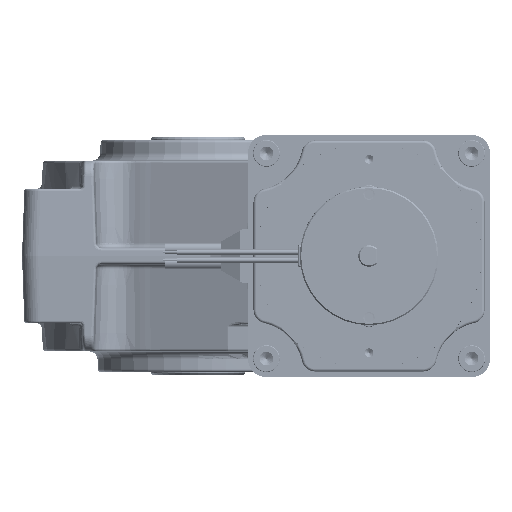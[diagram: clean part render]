
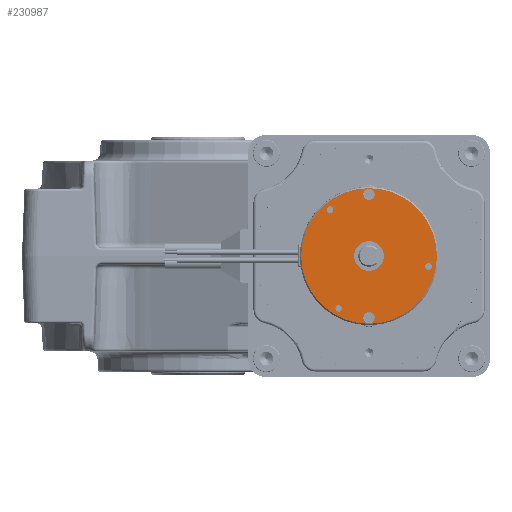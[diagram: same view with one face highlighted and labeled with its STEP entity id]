
A CAD part, left-side view. The second image highlights one B-rep face of the part: STEP entity #230987.
In plain terms, the highlighted planar face has unit normal (-1, 0, 0).
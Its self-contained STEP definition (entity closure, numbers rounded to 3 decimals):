
#2527 = FACE_BOUND ( 'NONE', #155790, .T. ) ;
#9206 = CARTESIAN_POINT ( 'NONE',  ( -340.959, -14.243, 55.702 ) ) ;
#12703 = CARTESIAN_POINT ( 'NONE',  ( -340.959, -16.841, 17.916 ) ) ;
#13329 = DIRECTION ( 'NONE',  ( 0., -0.5, 0.866 ) ) ;
#15775 = CARTESIAN_POINT ( 'NONE',  ( -340.959, -50.249, 33.495 ) ) ;
#21042 = CIRCLE ( 'NONE', #175764, 2.1 ) ;
#27526 = FACE_BOUND ( 'NONE', #263523, .T. ) ;
#29585 = EDGE_CURVE ( 'NONE', #246567, #230281, #285331, .T. ) ;
#29802 = AXIS2_PLACEMENT_3D ( 'NONE', #201644, #297012, #273530 ) ;
#30079 = VERTEX_POINT ( 'NONE', #9206 ) ;
#39037 = CARTESIAN_POINT ( 'NONE',  ( -340.959, -27.041, 12.583 ) ) ;
#40122 = DIRECTION ( 'NONE',  ( 0., -0.5, 0.866 ) ) ;
#41198 = EDGE_LOOP ( 'NONE', ( #279656, #296413 ) ) ;
#41358 = CARTESIAN_POINT ( 'NONE',  ( -340.959, -27.041, 58.583 ) ) ;
#42823 = ORIENTED_EDGE ( 'NONE', *, *, #72019, .T. ) ;
#43813 = DIRECTION ( 'NONE',  ( 0., -0.5, 0.866 ) ) ;
#45367 = ORIENTED_EDGE ( 'NONE', *, *, #211900, .T. ) ;
#46627 = AXIS2_PLACEMENT_3D ( 'NONE', #68235, #277633, #40122 ) ;
#50163 = VERTEX_POINT ( 'NONE', #139494 ) ;
#53137 = DIRECTION ( 'NONE',  ( 0., -0.5, 0.866 ) ) ;
#56312 = CARTESIAN_POINT ( 'NONE',  ( -340.959, -49.634, 32.43 ) ) ;
#56573 = ORIENTED_EDGE ( 'NONE', *, *, #204307, .T. ) ;
#57763 = VERTEX_POINT ( 'NONE', #39037 ) ;
#57863 = AXIS2_PLACEMENT_3D ( 'NONE', #58124, #156519, #182993 ) ;
#58124 = CARTESIAN_POINT ( 'NONE',  ( -340.959, -28.091, 37.402 ) ) ;
#63513 = CIRCLE ( 'NONE', #143380, 2.1 ) ;
#64432 = ORIENTED_EDGE ( 'NONE', *, *, #272502, .T. ) ;
#68228 = CIRCLE ( 'NONE', #157834, 1.23 ) ;
#68235 = CARTESIAN_POINT ( 'NONE',  ( -340.959, -28.091, 37.402 ) ) ;
#69850 = AXIS2_PLACEMENT_3D ( 'NONE', #154647, #220548, #53137 ) ;
#72019 = EDGE_CURVE ( 'NONE', #135974, #204086, #117862, .T. ) ;
#74890 = CIRCLE ( 'NONE', #29802, 2.1 ) ;
#75013 = ORIENTED_EDGE ( 'NONE', *, *, #103467, .T. ) ;
#81866 = ORIENTED_EDGE ( 'NONE', *, *, #256296, .T. ) ;
#86468 = CARTESIAN_POINT ( 'NONE',  ( -340.959, -25.341, 32.639 ) ) ;
#89576 = CIRCLE ( 'NONE', #274264, 5.5 ) ;
#97284 = ORIENTED_EDGE ( 'NONE', *, *, #224893, .T. ) ;
#97892 = PLANE ( 'NONE',  #165615 ) ;
#100269 = DIRECTION ( 'NONE',  ( 0., -0.5, 0.866 ) ) ;
#103467 = EDGE_CURVE ( 'NONE', #175442, #155106, #89576, .T. ) ;
#105058 = CIRCLE ( 'NONE', #154996, 25.25 ) ;
#105186 = EDGE_CURVE ( 'NONE', #57763, #122855, #21042, .T. ) ;
#107842 = DIRECTION ( 'NONE',  ( 0., -0.5, 0.866 ) ) ;
#112460 = EDGE_LOOP ( 'NONE', ( #131722, #162137 ) ) ;
#113901 = DIRECTION ( 'NONE',  ( 1., 0., 0. ) ) ;
#117862 = CIRCLE ( 'NONE', #292526, 2.1 ) ;
#117980 = EDGE_CURVE ( 'NONE', #187971, #217930, #156363, .T. ) ;
#119186 = CARTESIAN_POINT ( 'NONE',  ( -340.959, -28.091, 37.402 ) ) ;
#122855 = VERTEX_POINT ( 'NONE', #265808 ) ;
#124430 = EDGE_LOOP ( 'NONE', ( #81866, #180099 ) ) ;
#125352 = CARTESIAN_POINT ( 'NONE',  ( -340.959, -28.091, 60.402 ) ) ;
#126216 = EDGE_CURVE ( 'NONE', #155009, #241767, #234548, .T. ) ;
#130548 = AXIS2_PLACEMENT_3D ( 'NONE', #15775, #212606, #43813 ) ;
#131722 = ORIENTED_EDGE ( 'NONE', *, *, #117980, .T. ) ;
#134073 = CARTESIAN_POINT ( 'NONE',  ( -340.959, -29.141, 62.22 ) ) ;
#135974 = VERTEX_POINT ( 'NONE', #41358 ) ;
#136636 = EDGE_LOOP ( 'NONE', ( #45367, #75013 ) ) ;
#139494 = CARTESIAN_POINT ( 'NONE',  ( -340.959, -13.013, 53.573 ) ) ;
#143380 = AXIS2_PLACEMENT_3D ( 'NONE', #212978, #187914, #234923 ) ;
#144076 = DIRECTION ( 'NONE',  ( 1., 0., 0. ) ) ;
#145289 = CIRCLE ( 'NONE', #180192, 1.23 ) ;
#152563 = CIRCLE ( 'NONE', #267441, 1.23 ) ;
#154647 = CARTESIAN_POINT ( 'NONE',  ( -340.959, -16.841, 17.916 ) ) ;
#154996 = AXIS2_PLACEMENT_3D ( 'NONE', #248633, #276577, #107842 ) ;
#155009 = VERTEX_POINT ( 'NONE', #209799 ) ;
#155106 = VERTEX_POINT ( 'NONE', #179712 ) ;
#155492 = CARTESIAN_POINT ( 'NONE',  ( -340.959, -15.466, 15.535 ) ) ;
#155790 = EDGE_LOOP ( 'NONE', ( #203933, #64432 ) ) ;
#156071 = AXIS2_PLACEMENT_3D ( 'NONE', #228063, #113901, #160800 ) ;
#156363 = CIRCLE ( 'NONE', #46627, 25.25 ) ;
#156519 = DIRECTION ( 'NONE',  ( 1., 0., 0. ) ) ;
#157834 = AXIS2_PLACEMENT_3D ( 'NONE', #12703, #275195, #198690 ) ;
#160800 = DIRECTION ( 'NONE',  ( 0., -0.5, 0.866 ) ) ;
#162137 = ORIENTED_EDGE ( 'NONE', *, *, #256278, .T. ) ;
#165615 = AXIS2_PLACEMENT_3D ( 'NONE', #177369, #297749, #222891 ) ;
#175442 = VERTEX_POINT ( 'NONE', #86468 ) ;
#175764 = AXIS2_PLACEMENT_3D ( 'NONE', #186643, #305515, #13329 ) ;
#177369 = CARTESIAN_POINT ( 'NONE',  ( -340.959, -30.841, 42.165 ) ) ;
#179712 = CARTESIAN_POINT ( 'NONE',  ( -340.959, -30.841, 42.165 ) ) ;
#180099 = ORIENTED_EDGE ( 'NONE', *, *, #29585, .T. ) ;
#180192 = AXIS2_PLACEMENT_3D ( 'NONE', #198539, #293917, #203171 ) ;
#182993 = DIRECTION ( 'NONE',  ( 0., -0.5, 0.866 ) ) ;
#186643 = CARTESIAN_POINT ( 'NONE',  ( -340.959, -28.091, 14.402 ) ) ;
#187914 = DIRECTION ( 'NONE',  ( 1., 0., 0. ) ) ;
#187971 = VERTEX_POINT ( 'NONE', #207207 ) ;
#194011 = DIRECTION ( 'NONE',  ( 1., 0., 0. ) ) ;
#194743 = CARTESIAN_POINT ( 'NONE',  ( -340.959, -13.628, 54.638 ) ) ;
#195542 = DIRECTION ( 'NONE',  ( 0., -0.5, 0.866 ) ) ;
#198539 = CARTESIAN_POINT ( 'NONE',  ( -340.959, -50.249, 33.495 ) ) ;
#198690 = DIRECTION ( 'NONE',  ( 0., -0.5, 0.866 ) ) ;
#201644 = CARTESIAN_POINT ( 'NONE',  ( -340.959, -28.091, 60.402 ) ) ;
#203171 = DIRECTION ( 'NONE',  ( 0., -0.5, 0.866 ) ) ;
#203933 = ORIENTED_EDGE ( 'NONE', *, *, #126216, .T. ) ;
#204086 = VERTEX_POINT ( 'NONE', #134073 ) ;
#204307 = EDGE_CURVE ( 'NONE', #50163, #30079, #152563, .T. ) ;
#207207 = CARTESIAN_POINT ( 'NONE',  ( -340.959, -40.716, 59.269 ) ) ;
#209799 = CARTESIAN_POINT ( 'NONE',  ( -340.959, -17.455, 18.981 ) ) ;
#211900 = EDGE_CURVE ( 'NONE', #155106, #175442, #277361, .T. ) ;
#212606 = DIRECTION ( 'NONE',  ( 1., 0., 0. ) ) ;
#212978 = CARTESIAN_POINT ( 'NONE',  ( -340.959, -28.091, 14.402 ) ) ;
#215154 = FACE_BOUND ( 'NONE', #124430, .T. ) ;
#216740 = FACE_BOUND ( 'NONE', #41198, .T. ) ;
#217930 = VERTEX_POINT ( 'NONE', #155492 ) ;
#220548 = DIRECTION ( 'NONE',  ( 1., 0., 0. ) ) ;
#222891 = DIRECTION ( 'NONE',  ( 0., -0.5, 0.866 ) ) ;
#224463 = DIRECTION ( 'NONE',  ( 1., 0., 0. ) ) ;
#224893 = EDGE_CURVE ( 'NONE', #30079, #50163, #260788, .T. ) ;
#228063 = CARTESIAN_POINT ( 'NONE',  ( -340.959, -13.628, 54.638 ) ) ;
#230281 = VERTEX_POINT ( 'NONE', #281553 ) ;
#230375 = CARTESIAN_POINT ( 'NONE',  ( -340.959, -16.226, 16.851 ) ) ;
#230987 = ADVANCED_FACE ( 'NONE', ( #265054, #2527, #215154, #27526, #263542, #268100, #216740 ), #97892, .F. ) ;
#234548 = CIRCLE ( 'NONE', #69850, 1.23 ) ;
#234923 = DIRECTION ( 'NONE',  ( 0., -0.5, 0.866 ) ) ;
#241767 = VERTEX_POINT ( 'NONE', #230375 ) ;
#246567 = VERTEX_POINT ( 'NONE', #56312 ) ;
#247908 = EDGE_CURVE ( 'NONE', #204086, #135974, #74890, .T. ) ;
#248633 = CARTESIAN_POINT ( 'NONE',  ( -340.959, -28.091, 37.402 ) ) ;
#256278 = EDGE_CURVE ( 'NONE', #217930, #187971, #105058, .T. ) ;
#256296 = EDGE_CURVE ( 'NONE', #230281, #246567, #145289, .T. ) ;
#260788 = CIRCLE ( 'NONE', #156071, 1.23 ) ;
#261855 = EDGE_CURVE ( 'NONE', #122855, #57763, #63513, .T. ) ;
#263523 = EDGE_LOOP ( 'NONE', ( #97284, #56573 ) ) ;
#263542 = FACE_OUTER_BOUND ( 'NONE', #112460, .T. ) ;
#265054 = FACE_BOUND ( 'NONE', #136636, .T. ) ;
#265808 = CARTESIAN_POINT ( 'NONE',  ( -340.959, -29.141, 16.22 ) ) ;
#267441 = AXIS2_PLACEMENT_3D ( 'NONE', #194743, #224463, #291737 ) ;
#267496 = ORIENTED_EDGE ( 'NONE', *, *, #247908, .T. ) ;
#268100 = FACE_BOUND ( 'NONE', #295308, .T. ) ;
#272502 = EDGE_CURVE ( 'NONE', #241767, #155009, #68228, .T. ) ;
#273530 = DIRECTION ( 'NONE',  ( 0., -0.5, 0.866 ) ) ;
#274264 = AXIS2_PLACEMENT_3D ( 'NONE', #119186, #194011, #100269 ) ;
#275195 = DIRECTION ( 'NONE',  ( 1., 0., 0. ) ) ;
#276577 = DIRECTION ( 'NONE',  ( -1., 0., 0. ) ) ;
#277361 = CIRCLE ( 'NONE', #57863, 5.5 ) ;
#277633 = DIRECTION ( 'NONE',  ( -1., 0., 0. ) ) ;
#279656 = ORIENTED_EDGE ( 'NONE', *, *, #261855, .T. ) ;
#281553 = CARTESIAN_POINT ( 'NONE',  ( -340.959, -50.864, 34.559 ) ) ;
#285331 = CIRCLE ( 'NONE', #130548, 1.23 ) ;
#291737 = DIRECTION ( 'NONE',  ( 0., -0.5, 0.866 ) ) ;
#292526 = AXIS2_PLACEMENT_3D ( 'NONE', #125352, #144076, #195542 ) ;
#293917 = DIRECTION ( 'NONE',  ( 1., 0., 0. ) ) ;
#295308 = EDGE_LOOP ( 'NONE', ( #267496, #42823 ) ) ;
#296413 = ORIENTED_EDGE ( 'NONE', *, *, #105186, .T. ) ;
#297012 = DIRECTION ( 'NONE',  ( 1., 0., 0. ) ) ;
#297749 = DIRECTION ( 'NONE',  ( 1., 0., 0. ) ) ;
#305515 = DIRECTION ( 'NONE',  ( 1., 0., 0. ) ) ;
